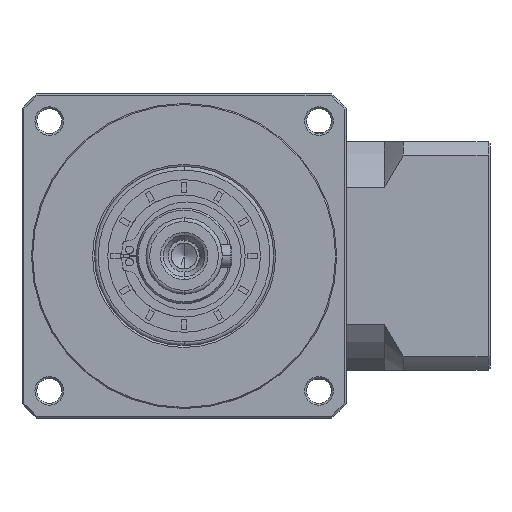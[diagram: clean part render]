
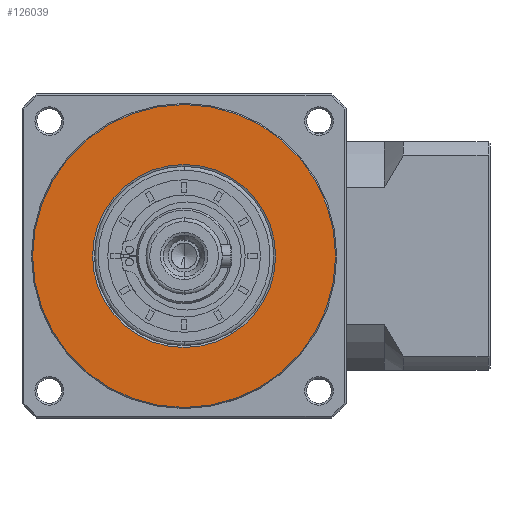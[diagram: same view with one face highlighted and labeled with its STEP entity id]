
A CAD part, left-side view. The second image highlights one B-rep face of the part: STEP entity #126039.
In plain terms, the highlighted planar face has unit normal (-1, 0, 0).
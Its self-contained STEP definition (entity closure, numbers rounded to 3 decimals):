
#2295 = DIRECTION ( 'NONE',  ( 0., 1., 0. ) ) ;
#13609 = CIRCLE ( 'NONE', #135277, 39.711 ) ;
#18253 = VERTEX_POINT ( 'NONE', #164416 ) ;
#21006 = CARTESIAN_POINT ( 'NONE',  ( 4.417, 72.13, -40.952 ) ) ;
#22114 = AXIS2_PLACEMENT_3D ( 'NONE', #39454, #135857, #53389 ) ;
#27559 = ORIENTED_EDGE ( 'NONE', *, *, #82852, .F. ) ;
#38488 = CARTESIAN_POINT ( 'NONE',  ( 4.417, 32.419, -40.952 ) ) ;
#39454 = CARTESIAN_POINT ( 'NONE',  ( 4.417, 32.419, -40.952 ) ) ;
#40947 = EDGE_CURVE ( 'NONE', #76046, #63899, #13609, .T. ) ;
#49776 = EDGE_LOOP ( 'NONE', ( #168149, #99527 ) ) ;
#52384 = DIRECTION ( 'NONE',  ( 0., 0., -1. ) ) ;
#53389 = DIRECTION ( 'NONE',  ( 0., 0., -1. ) ) ;
#53488 = CARTESIAN_POINT ( 'NONE',  ( 4.417, 32.419, -40.952 ) ) ;
#54819 = EDGE_CURVE ( 'NONE', #94528, #18253, #150545, .T. ) ;
#57041 = AXIS2_PLACEMENT_3D ( 'NONE', #167382, #84853, #2295 ) ;
#63899 = VERTEX_POINT ( 'NONE', #21006 ) ;
#67282 = DIRECTION ( 'NONE',  ( 0., 1., 0. ) ) ;
#71670 = AXIS2_PLACEMENT_3D ( 'NONE', #38488, #134879, #52384 ) ;
#76046 = VERTEX_POINT ( 'NONE', #98152 ) ;
#77626 = DIRECTION ( 'NONE',  ( 1., 0., 0. ) ) ;
#82852 = EDGE_CURVE ( 'NONE', #63899, #76046, #163169, .T. ) ;
#84853 = DIRECTION ( 'NONE',  ( 1., 0., 0. ) ) ;
#94528 = VERTEX_POINT ( 'NONE', #132303 ) ;
#97167 = CIRCLE ( 'NONE', #123222, 24. ) ;
#98152 = CARTESIAN_POINT ( 'NONE',  ( 4.417, -7.293, -40.952 ) ) ;
#98228 = FACE_BOUND ( 'NONE', #49776, .T. ) ;
#99527 = ORIENTED_EDGE ( 'NONE', *, *, #155840, .T. ) ;
#123222 = AXIS2_PLACEMENT_3D ( 'NONE', #160192, #77626, #174040 ) ;
#126039 = ADVANCED_FACE ( 'NONE', ( #171573, #98228 ), #162940, .T. ) ;
#132303 = CARTESIAN_POINT ( 'NONE',  ( 4.417, 32.419, -64.952 ) ) ;
#134879 = DIRECTION ( 'NONE',  ( 1., 0., 0. ) ) ;
#135277 = AXIS2_PLACEMENT_3D ( 'NONE', #53488, #149776, #67282 ) ;
#135857 = DIRECTION ( 'NONE',  ( -1., 0., 0. ) ) ;
#147284 = ORIENTED_EDGE ( 'NONE', *, *, #40947, .F. ) ;
#149776 = DIRECTION ( 'NONE',  ( 1., 0., 0. ) ) ;
#150545 = CIRCLE ( 'NONE', #71670, 24. ) ;
#155840 = EDGE_CURVE ( 'NONE', #18253, #94528, #97167, .T. ) ;
#160192 = CARTESIAN_POINT ( 'NONE',  ( 4.417, 32.419, -40.952 ) ) ;
#162940 = PLANE ( 'NONE',  #22114 ) ;
#163169 = CIRCLE ( 'NONE', #57041, 39.711 ) ;
#164416 = CARTESIAN_POINT ( 'NONE',  ( 4.417, 32.419, -16.952 ) ) ;
#164496 = EDGE_LOOP ( 'NONE', ( #27559, #147284 ) ) ;
#167382 = CARTESIAN_POINT ( 'NONE',  ( 4.417, 32.419, -40.952 ) ) ;
#168149 = ORIENTED_EDGE ( 'NONE', *, *, #54819, .T. ) ;
#171573 = FACE_OUTER_BOUND ( 'NONE', #164496, .T. ) ;
#174040 = DIRECTION ( 'NONE',  ( 0., 0., -1. ) ) ;
